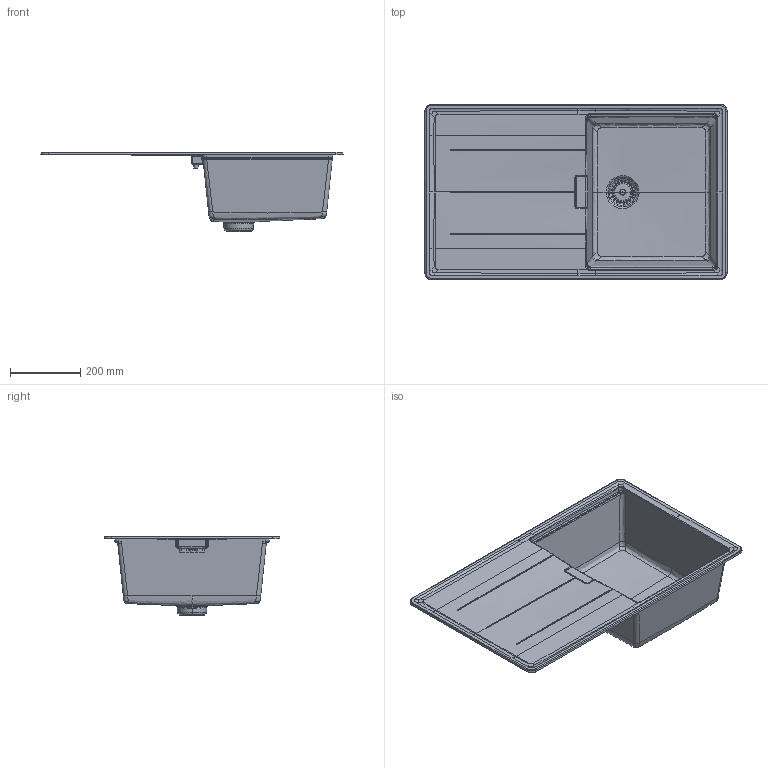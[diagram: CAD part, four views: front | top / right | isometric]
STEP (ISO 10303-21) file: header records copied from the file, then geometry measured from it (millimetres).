
FILE_DESCRIPTION(/* description */ (''),/* implementation_level */ '2;1');
FILE_NAME(/* name */ 'TIAD100',/* time_stamp */ '2021-03-09T17:03:09+01:00',/* author */ (''),/* organization */ (''),/* preprocessor_version */ 'ST-DEVELOPER v15',/* originating_system */ '',/* authorisation */ '');
FILE_SCHEMA (('AUTOMOTIVE_DESIGN_CC2'));
Length unit declared in the file: millimetre
Products named in the file (1): Document
Bounding box: 860 x 500 x 227.14 mm (x, y, z)
Volume: 14166.8 mm3; surface area: 722988.7 mm2
Topology: 3 solids, 4 shells, 469 faces, 1314 edges, 803 vertices
Faces by surface type: bspline 427, plane 42
Entity records: 71094 total; most frequent: CARTESIAN_POINT 63529, ORIENTED_EDGE 2585, EDGE_CURVE 1306, B_SPLINE_CURVE_WITH_KNOTS 1001, VERTEX_POINT 803, EDGE_LOOP 553, ADVANCED_FACE 469, FACE_OUTER_BOUND 469
